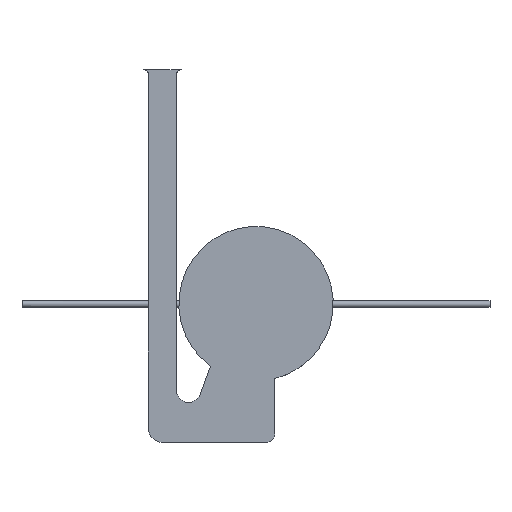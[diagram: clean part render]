
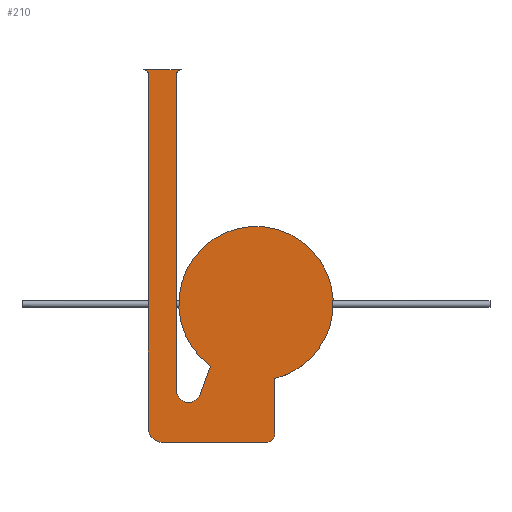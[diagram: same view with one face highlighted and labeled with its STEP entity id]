
A CAD part, top view. The second image highlights one B-rep face of the part: STEP entity #210.
In plain terms, the highlighted planar face has unit normal (0, 0, 1).
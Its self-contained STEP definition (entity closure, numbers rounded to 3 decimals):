
#210 = ADVANCED_FACE( '', ( #479 ), #480, .F. );
#479 = FACE_OUTER_BOUND( '', #817, .T. );
#480 = PLANE( '', #818 );
#817 = EDGE_LOOP( '', ( #1357, #1358, #1359, #1360, #1361, #1362, #1363, #1364, #1365, #1366, #1367, #1368 ) );
#818 = AXIS2_PLACEMENT_3D( '', #1369, #1370, #1371 );
#1357 = ORIENTED_EDGE( '', *, *, #1791, .F. );
#1358 = ORIENTED_EDGE( '', *, *, #1855, .F. );
#1359 = ORIENTED_EDGE( '', *, *, #1922, .F. );
#1360 = ORIENTED_EDGE( '', *, *, #1850, .T. );
#1361 = ORIENTED_EDGE( '', *, *, #1746, .F. );
#1362 = ORIENTED_EDGE( '', *, *, #1923, .T. );
#1363 = ORIENTED_EDGE( '', *, *, #1831, .T. );
#1364 = ORIENTED_EDGE( '', *, *, #1924, .F. );
#1365 = ORIENTED_EDGE( '', *, *, #1925, .T. );
#1366 = ORIENTED_EDGE( '', *, *, #1864, .F. );
#1367 = ORIENTED_EDGE( '', *, *, #1920, .F. );
#1368 = ORIENTED_EDGE( '', *, *, #1807, .F. );
#1369 = CARTESIAN_POINT( '', ( -300., 250., 0. ) );
#1370 = DIRECTION( '', ( 0., 0., -1. ) );
#1371 = DIRECTION( '', ( 0., 1., 0. ) );
#1746 = EDGE_CURVE( '', #2030, #2033, #2034, .T. );
#1791 = EDGE_CURVE( '', #2111, #2113, #2114, .F. );
#1807 = EDGE_CURVE( '', #2113, #2137, #2138, .T. );
#1831 = EDGE_CURVE( '', #2179, #2180, #2181, .F. );
#1850 = EDGE_CURVE( '', #2209, #2033, #2210, .F. );
#1855 = EDGE_CURVE( '', #2215, #2111, #2217, .T. );
#1864 = EDGE_CURVE( '', #2228, #2230, #2231, .F. );
#1920 = EDGE_CURVE( '', #2137, #2228, #2309, .F. );
#1922 = EDGE_CURVE( '', #2209, #2215, #2311, .F. );
#1923 = EDGE_CURVE( '', #2030, #2179, #2312, .T. );
#1924 = EDGE_CURVE( '', #2313, #2180, #2314, .F. );
#1925 = EDGE_CURVE( '', #2313, #2230, #2315, .F. );
#2030 = VERTEX_POINT( '', #2440 );
#2033 = VERTEX_POINT( '', #2444 );
#2034 = CIRCLE( '', #2445, 15. );
#2111 = VERTEX_POINT( '', #2585 );
#2113 = VERTEX_POINT( '', #2588 );
#2114 = CIRCLE( '', #2589, 5. );
#2137 = VERTEX_POINT( '', #2617 );
#2138 = LINE( '', #2618, #2619 );
#2179 = VERTEX_POINT( '', #2678 );
#2180 = VERTEX_POINT( '', #2679 );
#2181 = CIRCLE( '', #2680, 8.853 );
#2209 = VERTEX_POINT( '', #2715 );
#2210 = LINE( '', #2716, #2717 );
#2215 = VERTEX_POINT( '', #2724 );
#2217 = LINE( '', #2727, #2728 );
#2228 = VERTEX_POINT( '', #2766 );
#2230 = VERTEX_POINT( '', #2769 );
#2231 = LINE( '', #2770, #2771 );
#2309 = CIRCLE( '', #2866, 13. );
#2311 = CIRCLE( '', #2868, 5. );
#2312 = LINE( '', #2869, #2870 );
#2313 = VERTEX_POINT( '', #2871 );
#2314 = LINE( '', #2872, #2873 );
#2315 = CIRCLE( '', #2874, 82.5 );
#2440 = CARTESIAN_POINT( '', ( -100., -148., 0. ) );
#2444 = CARTESIAN_POINT( '', ( -115., -133., 0. ) );
#2445 = AXIS2_PLACEMENT_3D( '', #3118, #3119, #3120 );
#2585 = CARTESIAN_POINT( '', ( -80., 250., 0. ) );
#2588 = CARTESIAN_POINT( '', ( -85., 245., 0. ) );
#2589 = AXIS2_PLACEMENT_3D( '', #3194, #3195, #3196 );
#2617 = CARTESIAN_POINT( '', ( -85., -92.561, 0. ) );
#2618 = CARTESIAN_POINT( '', ( -85., -250., 0. ) );
#2619 = VECTOR( '', #3217, 1000. );
#2678 = CARTESIAN_POINT( '', ( 11.147, -148., 0. ) );
#2679 = CARTESIAN_POINT( '', ( 20., -139.147, 0. ) );
#2680 = AXIS2_PLACEMENT_3D( '', #3242, #3243, #3244 );
#2715 = CARTESIAN_POINT( '', ( -115., 245., 0. ) );
#2716 = CARTESIAN_POINT( '', ( -115., 260., 0. ) );
#2717 = VECTOR( '', #3270, 1000. );
#2724 = CARTESIAN_POINT( '', ( -120., 250., 0. ) );
#2727 = CARTESIAN_POINT( '', ( -300., 250., 0. ) );
#2728 = VECTOR( '', #3274, 1000. );
#2766 = CARTESIAN_POINT( '', ( -59.784, -97.008, 0. ) );
#2769 = CARTESIAN_POINT( '', ( -48.711, -66.585, 0. ) );
#2770 = CARTESIAN_POINT( '', ( -66.868, -116.471, 0. ) );
#2771 = VECTOR( '', #3282, 1000. );
#2866 = AXIS2_PLACEMENT_3D( '', #3360, #3361, #3362 );
#2868 = AXIS2_PLACEMENT_3D( '', #3363, #3364, #3365 );
#2869 = CARTESIAN_POINT( '', ( -60.404, -148., 0. ) );
#2870 = VECTOR( '', #3366, 1000. );
#2871 = CARTESIAN_POINT( '', ( 20., -80.039, 0. ) );
#2872 = CARTESIAN_POINT( '', ( 20., -250., 0. ) );
#2873 = VECTOR( '', #3367, 1000. );
#2874 = AXIS2_PLACEMENT_3D( '', #3368, #3369, #3370 );
#3118 = CARTESIAN_POINT( '', ( -100., -133., 0. ) );
#3119 = DIRECTION( '', ( 0., 0., -1. ) );
#3120 = DIRECTION( '', ( -1., 0., 0. ) );
#3194 = CARTESIAN_POINT( '', ( -80., 245., 0. ) );
#3195 = DIRECTION( '', ( 0., 0., -1. ) );
#3196 = DIRECTION( '', ( -1., 0., 0. ) );
#3217 = DIRECTION( '', ( 0., -1., 0. ) );
#3242 = CARTESIAN_POINT( '', ( 11.147, -139.147, 0. ) );
#3243 = DIRECTION( '', ( 0., 0., -1. ) );
#3244 = DIRECTION( '', ( -1., 0., 0. ) );
#3270 = DIRECTION( '', ( 0., 1., 0. ) );
#3274 = DIRECTION( '', ( 1., 0., 0. ) );
#3282 = DIRECTION( '', ( -0.342, -0.94, 0. ) );
#3360 = CARTESIAN_POINT( '', ( -72., -92.561, 0. ) );
#3361 = DIRECTION( '', ( 0., 0., -1. ) );
#3362 = DIRECTION( '', ( -1., 0., 0. ) );
#3363 = CARTESIAN_POINT( '', ( -120., 245., 0. ) );
#3364 = DIRECTION( '', ( 0., 0., -1. ) );
#3365 = DIRECTION( '', ( -1., 0., 0. ) );
#3366 = DIRECTION( '', ( 1., 0., 0. ) );
#3367 = DIRECTION( '', ( 0., 1., 0. ) );
#3368 = CARTESIAN_POINT( '', ( 0., 0., 0. ) );
#3369 = DIRECTION( '', ( 0., 0., -1. ) );
#3370 = DIRECTION( '', ( -1., 0., 0. ) );
